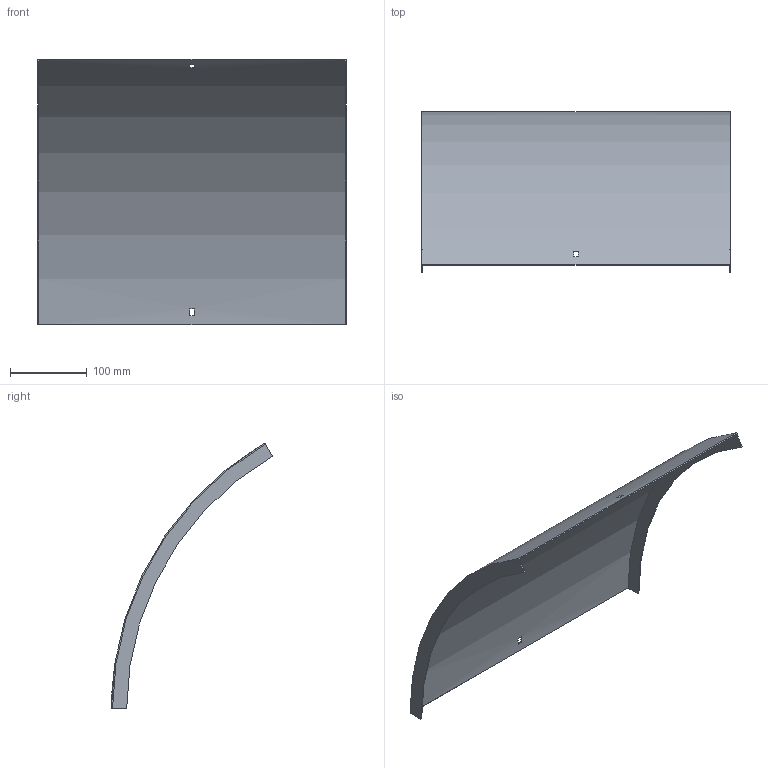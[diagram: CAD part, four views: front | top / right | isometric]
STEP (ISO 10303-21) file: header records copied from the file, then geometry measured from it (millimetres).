
FILE_DESCRIPTION (( 'STEP AP214' ), '1' );
FILE_NAME ('B2_41N3D400.step', '2025-02-21T10:41:42', ( '' ), ( '' ), 'SwSTEP 2.0', 'SolidWorks 2023', '' );
FILE_SCHEMA (( 'AUTOMOTIVE_DESIGN' ));
Length unit declared in the file: millimetre
Products named in the file (1): B2_41N3D400
Bounding box: 403 x 210.75 x 347.71 mm (x, y, z)
Volume: 276221.7 mm3; surface area: 370909.5 mm2
Topology: 1 solids, 1 shells, 18 faces, 48 edges, 32 vertices
Faces by surface type: plane 14, cylinder 4
Entity records: 599 total; most frequent: DIRECTION 102, CARTESIAN_POINT 99, ORIENTED_EDGE 96, EDGE_CURVE 48, AXIS2_PLACEMENT_3D 35, LINE 32, VERTEX_POINT 32, VECTOR 32
